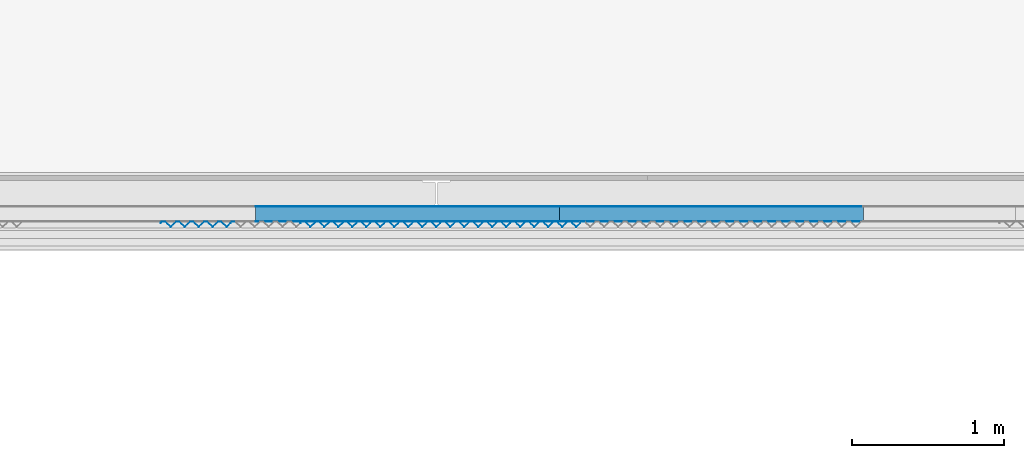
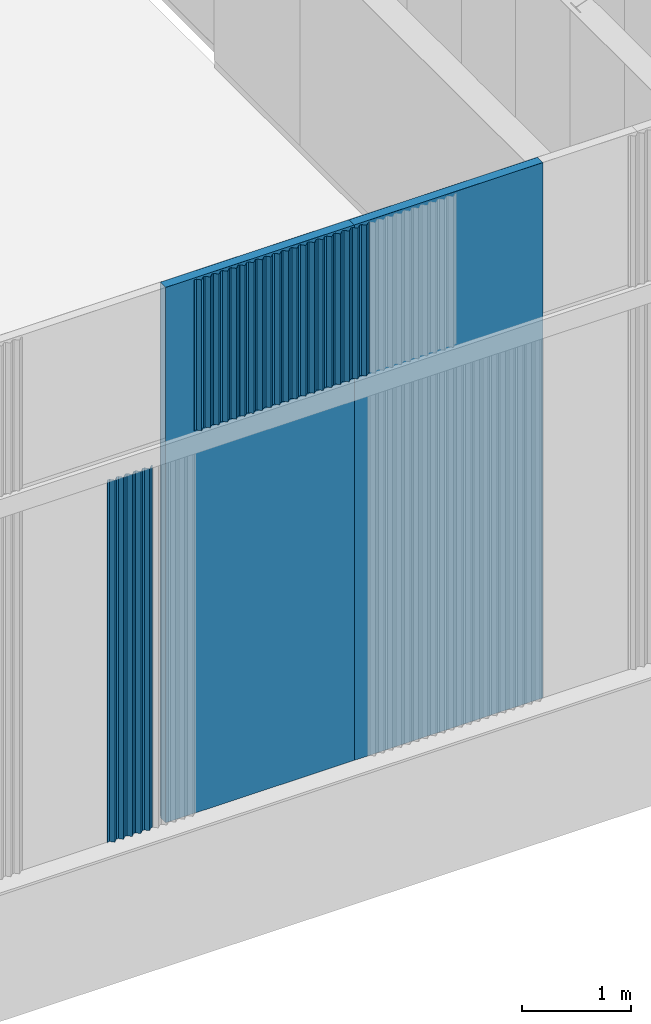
# One storey, part 99 of 338: 11 building element parts, 5 elements without a shape of their own.
"""IFC2X3 building model written with IfcOpenShell, lengths in millimetres."""

from ifc_helpers import new_model, entity, si_unit, converted_unit, derived_unit, money_unit, direction, frame, origin_with_axes, place, context, subcontext, project, spatial, faceted_brep, material, type_object, element, aggregate, save


model = new_model("IFC2X3")

# Units and contexts
model_context = context("Model", 3, precision=0.01, world=origin_with_axes(), true_north=direction((0.0, 1.0)))
plan_context = context("Plan", 3, precision=0.01, world=origin_with_axes(), true_north=direction((0.0, 1.0)))
body_context = subcontext(model_context, "Body", "Model", "MODEL_VIEW")
ifc_project = project(units=[si_unit("LENGTHUNIT", "METRE", prefix="MILLI"), si_unit("AREAUNIT", "SQUARE_METRE"), si_unit("VOLUMEUNIT", "CUBIC_METRE"), converted_unit("PLANEANGLEUNIT", "DEGREE", entity("IfcPlaneAngleMeasure", 0.0174532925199), si_unit("PLANEANGLEUNIT", "RADIAN"), dimensions=[0, 0, 0, 0, 0, 0, 0]), money_unit("EUR"), converted_unit("TIMEUNIT", "Year", entity("IfcTimeMeasure", 31556926.0), si_unit("TIMEUNIT", "SECOND"), dimensions=[0, 0, 1, 0, 0, 0, 0]), si_unit("MASSUNIT", "GRAM", prefix="KILO"), si_unit("THERMODYNAMICTEMPERATUREUNIT", "DEGREE_CELSIUS"), si_unit("LUMINOUSINTENSITYUNIT", "LUMEN"), si_unit("ENERGYUNIT", "JOULE", prefix="MEGA"), derived_unit("THERMALCONDUCTANCEUNIT", [(si_unit("POWERUNIT", "WATT"), 1), (si_unit("LENGTHUNIT", "METRE"), -1), (si_unit("THERMODYNAMICTEMPERATUREUNIT", "KELVIN"), -1)]), derived_unit("SPECIFICHEATCAPACITYUNIT", [(si_unit("ENERGYUNIT", "JOULE"), 1), (si_unit("MASSUNIT", "GRAM", prefix="KILO"), -1), (si_unit("THERMODYNAMICTEMPERATUREUNIT", "KELVIN"), -1)]), derived_unit("MASSDENSITYUNIT", [(si_unit("MASSUNIT", "GRAM", prefix="KILO"), 1), (si_unit("VOLUMEUNIT", "CUBIC_METRE"), -1)])], contexts=[model_context, plan_context])

# Site, building, storey
site_placement = place(None, origin_with_axes())
site = spatial("IfcSite", under=ifc_project, at=site_placement, Name="Fortuinstraat Woensdrecht", CompositionType="ELEMENT")
building_placement = place(site_placement, origin_with_axes())
building = spatial("IfcBuilding", under=site, at=building_placement, Name="IKC Fortuna", CompositionType="ELEMENT")
storey_placement = place(building_placement, origin_with_axes())
storey = spatial("IfcBuildingStorey", under=building, at=storey_placement, Name="00 begane grond", CompositionType="ELEMENT", Elevation=0.0)

# Wall, building element parts
wall_type = type_object("IfcWallType", Name="21 sandwich 100", PredefinedType="NOTDEFINED")
wall_1_placement = place(storey_placement, frame((56093.4131798, 20996.2966283, 1000.0), z_axis=(0.0, 0.0, 1.0), x_axis=(-1.0, 0.0, 0.0)))
wall_1 = element("IfcWall", 1, at=wall_1_placement, inside=storey, type_object=wall_type, Name="21_Wand_sandwichplaat")
ifc_material_1 = material(Name="Metaal - Aluminium")
building_element_part_1_placement = place(wall_1_placement, origin_with_axes())
building_element_part_1 = element("IfcBuildingElementPart", 2, at=building_element_part_1_placement, material=ifc_material_1, Name="Metaal - Aluminium", context=body_context, shape_type="Brep", body=[
    faceted_brep([(0.0, 99.0, 6000.0), (2000.0, 99.0, 6000.0), (2000.0, 100.0, 6000.0), (0.0, 100.0, 6000.0), (0.0, 99.0, 0.0), (2000.0, 99.0, 0.0), (2000.0, 100.0, 0.0), (0.0, 100.0, 0.0)], [[[0, 1, 2, 3]], [[4, 5, 1, 0]], [[2, 1, 5, 6]], [[3, 2, 6, 7]], [[4, 0, 3, 7]], [[7, 6, 5, 4]]]),
])
ifc_material_2 = material(Name="Isolatie - Kunststof hard")
building_element_part_2_placement = place(wall_1_placement, origin_with_axes())
building_element_part_2 = element("IfcBuildingElementPart", 3, at=building_element_part_2_placement, material=ifc_material_2, Name="Isolatie - Kunststof hard", context=body_context, shape_type="Brep", body=[
    faceted_brep([(2000.0, 1.0, 6000.0), (2000.0, 99.0, 6000.0), (0.0, 99.0, 6000.0), (0.0, 1.0, 6000.0), (2000.0, 1.0, 0.0), (2000.0, 99.0, 0.0), (0.0, 99.0, 0.0), (0.0, 1.0, 0.0)], [[[0, 1, 2, 3]], [[0, 4, 5, 1]], [[1, 5, 6, 2]], [[3, 2, 6, 7]], [[4, 0, 3, 7]], [[5, 4, 7, 6]]]),
])
building_element_part_3_placement = place(wall_1_placement, origin_with_axes())
building_element_part_3 = element("IfcBuildingElementPart", 4, at=building_element_part_3_placement, material=ifc_material_1, Name="Metaal - Aluminium", context=body_context, shape_type="Brep", body=[
    faceted_brep([(2000.0, 1.0, 6000.0), (2000.0, 0.999999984, 18.9261694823), (0.0, 0.999999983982, 18.9261694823), (0.0, 1.0, 6000.0), (2000.0, 0.0, 18.9263474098), (2000.0, 0.0, 6000.0), (0.0, 0.0, 18.9263474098), (0.0, 0.0, 6000.0)], [[[0, 1, 2, 3]], [[4, 1, 0, 5]], [[1, 4, 6, 2]], [[3, 2, 6, 7]], [[5, 0, 3, 7]], [[4, 5, 7, 6]]]),
])
aggregate(wall_1, [building_element_part_1, building_element_part_2, building_element_part_3])

wall_2_placement = place(storey_placement, frame((54093.4131798, 20996.2966283, 1000.0), z_axis=(0.0, 0.0, 1.0), x_axis=(-1.0, 0.0, 0.0)))
wall_2 = element("IfcWall", 5, at=wall_2_placement, inside=storey, type_object=wall_type, Name="21_Wand_sandwichplaat")
building_element_part_4_placement = place(wall_2_placement, origin_with_axes())
building_element_part_4 = element("IfcBuildingElementPart", 6, at=building_element_part_4_placement, material=ifc_material_1, Name="Metaal - Aluminium", context=body_context, shape_type="Brep", body=[
    faceted_brep([(0.0, 99.0, 6000.0), (2000.0, 99.0, 6000.0), (2000.0, 100.0, 6000.0), (0.0, 100.0, 6000.0), (0.0, 99.0, 0.0), (2000.0, 99.0, 0.0), (2000.0, 100.0, 0.0), (0.0, 100.0, 0.0)], [[[0, 1, 2, 3]], [[4, 5, 1, 0]], [[2, 1, 5, 6]], [[3, 2, 6, 7]], [[4, 0, 3, 7]], [[7, 6, 5, 4]]]),
])
building_element_part_5_placement = place(wall_2_placement, origin_with_axes())
building_element_part_5 = element("IfcBuildingElementPart", 7, at=building_element_part_5_placement, material=ifc_material_2, Name="Isolatie - Kunststof hard", context=body_context, shape_type="Brep", body=[
    faceted_brep([(0.0, 1.0, 0.0), (2000.0, 1.0, 0.0), (2000.0, 1.0, 6000.0), (0.0, 1.0, 6000.0), (783.886122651, 1.0, 5455.33386304), (709.986122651, 1.0, 5455.33386304), (709.986122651, 1.0, 5471.33612763), (909.986122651, 1.0, 5471.33612763), (909.986122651, 1.0, 5455.33386304), (836.086122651, 1.0, 5455.33386304), (825.586122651, 1.0, 5452.51999831), (817.899589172, 1.0, 5444.8323769), (815.086122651, 1.0, 5434.33089076), (815.086122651, 1.0, 5008.27059593), (817.899589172, 1.0, 4997.76910979), (825.586122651, 1.0, 4990.08148838), (836.086122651, 1.0, 4987.26762365), (909.986122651, 1.0, 4987.26762365), (909.986122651, 1.0, 4971.26535906), (709.986122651, 1.0, 4971.26535906), (709.986122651, 1.0, 4987.26762365), (783.886122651, 1.0, 4987.26762365), (794.386122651, 1.0, 4990.08148838), (802.072656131, 1.0, 4997.76910979), (804.886122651, 1.0, 5008.27059593), (804.886122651, 1.0, 5434.33089076), (802.072656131, 1.0, 5444.8323769), (794.386122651, 1.0, 5452.51999831), (0.0, 99.0, 0.0), (2000.0, 99.0, 0.0), (2000.0, 99.0, 6000.0), (0.0, 99.0, 6000.0), (783.886122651, 6.82020058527, 5455.43179028), (709.986122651, 6.82020058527, 5455.43179028), (709.986122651, 6.55103216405, 5471.42952601), (909.986122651, 6.55103216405, 5471.42952601), (909.986122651, 6.82020058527, 5455.43179028), (836.086122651, 6.82020058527, 5455.43179028), (825.586122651, 6.86753160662, 5452.61872192), (817.899589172, 6.9968423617, 5444.93327621), (815.086122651, 7.17348413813, 5434.43476214), (815.086122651, 14.3400933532, 5008.49504844), (817.899589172, 14.5167351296, 4997.99653437), (825.586122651, 14.6460458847, 4990.31108866), (836.086122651, 14.6933769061, 4987.4980203), (909.986122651, 14.6933769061, 4987.4980203), (909.986122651, 14.9625453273, 4971.50028457), (709.986122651, 14.9625453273, 4971.50028457), (709.986122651, 14.6933769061, 4987.4980203), (783.886122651, 14.6933769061, 4987.4980203), (794.386122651, 14.6460458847, 4990.31108866), (802.072656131, 14.5167351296, 4997.99653437), (804.886122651, 14.3400933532, 5008.49504844), (804.886122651, 7.17348413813, 5434.43476214), (802.072656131, 6.9968423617, 5444.93327621), (794.386122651, 6.86753160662, 5452.61872192)], [[[0, 1, 2, 3], [4, 5, 6, 7, 8, 9, 10, 11, 12, 13, 14, 15, 16, 17, 18, 19, 20, 21, 22, 23, 24, 25, 26, 27]], [[28, 29, 1, 0]], [[30, 2, 1, 29]], [[3, 2, 30, 31]], [[0, 3, 31, 28]], [[5, 4, 32, 33]], [[6, 5, 33, 34]], [[7, 6, 34, 35]], [[8, 7, 35, 36]], [[9, 8, 36, 37]], [[10, 9, 37, 38]], [[11, 10, 38, 39]], [[12, 11, 39, 40]], [[13, 12, 40, 41]], [[14, 13, 41, 42]], [[15, 14, 42, 43]], [[16, 15, 43, 44]], [[17, 16, 44, 45]], [[18, 17, 45, 46]], [[19, 18, 46, 47]], [[20, 19, 47, 48]], [[21, 20, 48, 49]], [[22, 21, 49, 50]], [[23, 22, 50, 51]], [[24, 23, 51, 52]], [[25, 24, 52, 53]], [[26, 25, 53, 54]], [[27, 26, 54, 55]], [[4, 27, 55, 32]], [[31, 30, 29, 28]], [[47, 46, 45, 44, 43, 42, 41, 40, 39, 38, 37, 36, 35, 34, 33, 32, 55, 54, 53, 52, 51, 50, 49, 48]]]),
])
building_element_part_6_placement = place(wall_2_placement, origin_with_axes())
building_element_part_6 = element("IfcBuildingElementPart", 8, at=building_element_part_6_placement, material=ifc_material_1, Name="Metaal - Aluminium", context=body_context, shape_type="Brep", body=[
    faceted_brep([(909.986122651, 1.0, 4987.26762365), (909.986122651, 1.0, 4971.26535906), (909.986122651, 0.0, 4971.24853365), (909.986122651, 0.0, 4987.25079824), (2000.0, 1.0, 6000.0), (2000.0, 0.999999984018, 18.9261694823), (0.0, 0.999999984, 18.9261694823), (0.0, 1.0, 6000.0), (836.086122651, 1.0, 4987.26762365), (825.586122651, 1.0, 4990.08148838), (817.899589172, 1.0, 4997.76910979), (815.086122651, 1.0, 5008.27059593), (815.086122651, 1.0, 5434.33089076), (817.899589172, 1.0, 5444.8323769), (825.586122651, 1.0, 5452.51999831), (836.086122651, 1.0, 5455.33386304), (909.986122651, 1.0, 5455.33386304), (909.986122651, 1.0, 5471.33612763), (709.986122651, 1.0, 5471.33612763), (709.986122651, 1.0, 5455.33386304), (783.886122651, 1.0, 5455.33386304), (794.386122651, 1.0, 5452.51999831), (802.072656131, 1.0, 5444.8323769), (804.886122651, 1.0, 5434.33089076), (804.886122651, 1.0, 5008.27059593), (802.072656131, 1.0, 4997.76910979), (794.386122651, 1.0, 4990.08148838), (783.886122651, 1.0, 4987.26762365), (709.986122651, 1.0, 4987.26762365), (709.986122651, 1.0, 4971.26535906), (709.986122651, 0.0, 4971.24853365), (2000.0, 0.0, 18.9263474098), (2000.0, 0.0, 6000.0), (0.0, 0.0, 6000.0), (0.0, 0.0, 18.9263474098), (825.586122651, 0.0, 4990.06466297), (836.086122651, 0.0, 4987.25079824), (709.986122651, 0.0, 4987.25079824), (783.886122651, 0.0, 4987.25079824), (794.386122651, 0.0, 4990.06466297), (802.072656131, 0.0, 4997.75228438), (804.886122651, 0.0, 5008.25377052), (804.886122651, 0.0, 5434.31406535), (802.072656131, 0.0, 5444.81555149), (794.386122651, 0.0, 5452.5031729), (783.886122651, 0.0, 5455.31703763), (709.986122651, 0.0, 5455.31703763), (709.986122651, 0.0, 5471.31930223), (909.986122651, 0.0, 5471.31930223), (909.986122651, 0.0, 5455.31703763), (836.086122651, 0.0, 5455.31703763), (825.586122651, 0.0, 5452.5031729), (817.899589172, 0.0, 5444.81555149), (815.086122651, 0.0, 5434.31406535), (815.086122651, 0.0, 5008.25377052), (817.899589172, 0.0, 4997.75228438)], [[[0, 1, 2, 3]], [[4, 5, 6, 7], [1, 0, 8, 9, 10, 11, 12, 13, 14, 15, 16, 17, 18, 19, 20, 21, 22, 23, 24, 25, 26, 27, 28, 29]], [[2, 1, 29, 30]], [[31, 32, 33, 34], [35, 36, 3, 2, 30, 37, 38, 39, 40, 41, 42, 43, 44, 45, 46, 47, 48, 49, 50, 51, 52, 53, 54, 55]], [[8, 0, 3, 36]], [[5, 4, 32, 31]], [[5, 31, 34, 6]], [[7, 6, 34, 33]], [[32, 4, 7, 33]], [[36, 35, 9, 8]], [[10, 9, 35, 55]], [[11, 10, 55, 54]], [[11, 54, 53, 12]], [[13, 12, 53, 52]], [[14, 13, 52, 51]], [[51, 50, 15, 14]], [[49, 16, 15, 50]], [[17, 16, 49, 48]], [[17, 48, 47, 18]], [[19, 18, 47, 46]], [[20, 19, 46, 45]], [[44, 21, 20, 45]], [[22, 21, 44, 43]], [[23, 22, 43, 42]], [[24, 23, 42, 41]], [[25, 24, 41, 40]], [[26, 25, 40, 39]], [[26, 39, 38, 27]], [[28, 27, 38, 37]], [[29, 28, 37, 30]]]),
])
aggregate(wall_2, [building_element_part_4, building_element_part_5, building_element_part_6])

# Proxy, building element parts
building_element_proxy_type = type_object("IfcBuildingElementProxyType", Name="21 Sandwich custom pyramid 946 x 37", PredefinedType="NOTDEFINED")
proxy_1_placement = place(storey_placement, frame((54254.9270571, 20896.2966283, 5289.99999237), z_axis=(0.0, 0.0, 1.0), x_axis=(-1.0, 0.0, 0.0)))
proxy_1 = element("IfcBuildingElementProxy", 9, at=proxy_1_placement, inside=storey, type_object=building_element_proxy_type, Name="41_Generieke bekleding & afwerking buiten_sandwich custom pyramid")
building_element_part_7_placement = place(proxy_1_placement, origin_with_axes())
building_element_part_7 = element("IfcBuildingElementPart", 10, at=building_element_part_7_placement, material=ifc_material_1, Name="Metaal - Aluminium", context=body_context, shape_type="Brep", body=[
    faceted_brep([(0.0, 2.39999686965, 0.0), (0.0, 1.20000548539, 0.0), (0.0, 1.20000548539, 1690.00000566), (0.0, 2.39999686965, 1690.00000566), (16.7470988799, 2.39999686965, 0.0), (52.0000026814, 36.6736482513, 0.0), (88.487191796, 1.20000548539, 0.0), (107.51282048, 1.20000548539, 0.0), (143.999995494, 36.6736482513, 0.0), (180.487184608, 1.20000548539, 0.0), (199.512813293, 1.20000548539, 0.0), (236.000002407, 36.6736482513, 0.0), (272.487191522, 1.20000548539, 0.0), (291.512820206, 1.20000548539, 0.0), (327.99999522, 36.6736482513, 0.0), (364.487184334, 1.20000548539, 0.0), (383.512813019, 1.20000548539, 0.0), (420.000002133, 36.6736482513, 0.0), (456.487191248, 1.20000548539, 0.0), (460.000006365, 1.20000548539, 0.0), (477.23428491, 1.20000548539, 0.0), (485.472879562, 9.20975302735, 0.0), (486.309372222, 8.34935896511, 0.0), (477.721464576, 0.0, 0.0), (455.999997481, 0.0, 0.0), (420.000002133, 35.0000001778, 0.0), (384.000006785, 0.0, 0.0), (364.000004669, 0.0, 0.0), (327.99999522, 35.0000001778, 0.0), (291.999999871, 0.0, 0.0), (271.999997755, 0.0, 0.0), (236.000002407, 35.0000001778, 0.0), (199.999992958, 0.0, 0.0), (180.000004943, 0.0, 0.0), (143.999995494, 35.0000001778, 0.0), (108.000000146, 0.0, 0.0), (87.9999980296, 0.0, 0.0), (52.0000026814, 35.0000001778, 0.0), (17.2342926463, 1.20000548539, 0.0), (17.2342926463, 1.20000548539, 1690.00000566), (52.0000026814, 35.0000001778, 1690.00000566), (87.9999980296, 0.0, 1690.00000566), (108.000000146, 0.0, 1690.00000566), (143.999995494, 35.0000001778, 1690.00000566), (180.000004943, 0.0, 1690.00000566), (199.999992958, 0.0, 1690.00000566), (236.000002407, 35.0000001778, 1690.00000566), (271.999997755, 0.0, 1690.00000566), (291.999999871, 0.0, 1690.00000566), (327.99999522, 35.0000001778, 1690.00000566), (364.000004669, 0.0, 1690.00000566), (384.000006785, 0.0, 1690.00000566), (420.000002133, 35.0000001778, 1690.00000566), (455.999997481, 0.0, 1690.00000566), (477.721464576, 0.0, 1690.00000566), (486.309372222, 8.34935896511, 1690.00000566), (485.472879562, 9.20975302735, 1690.00000566), (477.23428491, 1.20000548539, 1690.00000566), (460.000006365, 1.20000548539, 1690.00000566), (456.487191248, 1.20000548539, 1690.00000566), (420.000002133, 36.6736482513, 1690.00000566), (383.512813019, 1.20000548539, 1690.00000566), (364.487184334, 1.20000548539, 1690.00000566), (327.99999522, 36.6736482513, 1690.00000566), (291.512820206, 1.20000548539, 1690.00000566), (272.487191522, 1.20000548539, 1690.00000566), (236.000002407, 36.6736482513, 1690.00000566), (199.512813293, 1.20000548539, 1690.00000566), (180.487184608, 1.20000548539, 1690.00000566), (143.999995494, 36.6736482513, 1690.00000566), (107.51282048, 1.20000548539, 1690.00000566), (88.487191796, 1.20000548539, 1690.00000566), (52.0000026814, 36.6736482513, 1690.00000566), (16.7470988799, 2.39999686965, 1690.00000566)], [[[0, 1, 2, 3]], [[0, 4, 5, 6, 7, 8, 9, 10, 11, 12, 13, 14, 15, 16, 17, 18, 19, 20, 21, 22, 23, 24, 25, 26, 27, 28, 29, 30, 31, 32, 33, 34, 35, 36, 37, 38, 1]], [[1, 38, 39, 2]], [[3, 2, 39, 40, 41, 42, 43, 44, 45, 46, 47, 48, 49, 50, 51, 52, 53, 54, 55, 56, 57, 58, 59, 60, 61, 62, 63, 64, 65, 66, 67, 68, 69, 70, 71, 72, 73]], [[4, 0, 3, 73]], [[5, 4, 73, 72]], [[6, 5, 72, 71]], [[7, 6, 71, 70]], [[8, 7, 70, 69]], [[9, 8, 69, 68]], [[10, 9, 68, 67]], [[11, 10, 67, 66]], [[12, 11, 66, 65]], [[13, 12, 65, 64]], [[14, 13, 64, 63]], [[15, 14, 63, 62]], [[16, 15, 62, 61]], [[17, 16, 61, 60]], [[18, 17, 60, 59]], [[19, 18, 59, 58]], [[20, 19, 58, 57]], [[21, 20, 57, 56]], [[22, 21, 56, 55]], [[23, 22, 55, 54]], [[24, 23, 54, 53]], [[25, 24, 53, 52]], [[26, 25, 52, 51]], [[27, 26, 51, 50]], [[28, 27, 50, 49]], [[29, 28, 49, 48]], [[30, 29, 48, 47]], [[31, 30, 47, 46]], [[32, 31, 46, 45]], [[33, 32, 45, 44]], [[34, 33, 44, 43]], [[35, 34, 43, 42]], [[36, 35, 42, 41]], [[37, 36, 41, 40]], [[38, 37, 40, 39]]]),
])
building_element_part_8_placement = place(proxy_1_placement, origin_with_axes())
building_element_part_8 = element("IfcBuildingElementPart", 11, at=building_element_part_8_placement, material=ifc_material_1, Name="Metaal - Aluminium", context=body_context, shape_type="Brep", body=[
    faceted_brep([(460.0, 1.2, 0.0), (477.234285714, 1.2, 0.0), (477.234285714, 1.2, 1690.00000566), (460.0, 1.2, 1690.00000566), (460.0, 2.4, 0.0), (476.747100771, 2.4, 0.0), (512.0, 36.6736520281, 0.0), (548.487184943, 1.2, 0.0), (567.512815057, 1.2, 0.0), (604.0, 36.6736520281, 0.0), (640.487184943, 1.2, 0.0), (659.512815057, 1.2, 0.0), (696.0, 36.6736520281, 0.0), (732.487184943, 1.2, 0.0), (751.512815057, 1.2, 0.0), (788.0, 36.6736520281, 0.0), (824.487184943, 1.2, 0.0), (843.512815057, 1.2, 0.0), (880.0, 36.6736520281, 0.0), (916.487184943, 1.2, 0.0), (937.234285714, 1.2, 0.0), (945.472884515, 9.20974883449, 0.0), (946.309378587, 8.34935493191, 0.0), (937.721470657, 0.0, 0.0), (916.0, 0.0, 0.0), (880.0, 35.0, 0.0), (844.0, 0.0, 0.0), (824.0, 0.0, 0.0), (788.0, 35.0, 0.0), (752.0, 0.0, 0.0), (732.0, 0.0, 0.0), (696.0, 35.0, 0.0), (660.0, 0.0, 0.0), (640.0, 0.0, 0.0), (604.0, 35.0, 0.0), (568.0, 0.0, 0.0), (548.0, 0.0, 0.0), (512.0, 35.0, 0.0), (485.472879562, 9.20975302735, 0.0), (485.472879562, 9.20975302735, 1690.00000566), (512.0, 35.0, 1690.00000566), (548.0, 0.0, 1690.00000566), (568.0, 0.0, 1690.00000566), (604.0, 35.0, 1690.00000566), (640.0, 0.0, 1690.00000566), (660.0, 0.0, 1690.00000566), (696.0, 35.0, 1690.00000566), (732.0, 0.0, 1690.00000566), (752.0, 0.0, 1690.00000566), (788.0, 35.0, 1690.00000566), (824.0, 0.0, 1690.00000566), (844.0, 0.0, 1690.00000566), (880.0, 35.0, 1690.00000566), (916.0, 0.0, 1690.00000566), (937.721470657, 0.0, 1690.00000566), (946.309378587, 8.34935493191, 1690.00000566), (945.472884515, 9.20974883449, 1690.00000566), (937.234285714, 1.2, 1690.00000566), (916.487184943, 1.2, 1690.00000566), (880.0, 36.6736520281, 1690.00000566), (843.512815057, 1.2, 1690.00000566), (824.487184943, 1.2, 1690.00000566), (788.0, 36.6736520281, 1690.00000566), (751.512815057, 1.2, 1690.00000566), (732.487184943, 1.2, 1690.00000566), (696.0, 36.6736520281, 1690.00000566), (659.512815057, 1.2, 1690.00000566), (640.487184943, 1.2, 1690.00000566), (604.0, 36.6736520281, 1690.00000566), (567.512815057, 1.2, 1690.00000566), (548.487184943, 1.2, 1690.00000566), (512.0, 36.6736520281, 1690.00000566), (476.747100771, 2.4, 1690.00000566), (460.0, 2.4, 1690.00000566)], [[[0, 1, 2, 3]], [[0, 4, 5, 6, 7, 8, 9, 10, 11, 12, 13, 14, 15, 16, 17, 18, 19, 20, 21, 22, 23, 24, 25, 26, 27, 28, 29, 30, 31, 32, 33, 34, 35, 36, 37, 38, 1]], [[1, 38, 39, 2]], [[3, 2, 39, 40, 41, 42, 43, 44, 45, 46, 47, 48, 49, 50, 51, 52, 53, 54, 55, 56, 57, 58, 59, 60, 61, 62, 63, 64, 65, 66, 67, 68, 69, 70, 71, 72, 73]], [[4, 0, 3, 73]], [[5, 4, 73, 72]], [[6, 5, 72, 71]], [[7, 6, 71, 70]], [[8, 7, 70, 69]], [[9, 8, 69, 68]], [[10, 9, 68, 67]], [[11, 10, 67, 66]], [[12, 11, 66, 65]], [[13, 12, 65, 64]], [[14, 13, 64, 63]], [[15, 14, 63, 62]], [[16, 15, 62, 61]], [[17, 16, 61, 60]], [[18, 17, 60, 59]], [[19, 18, 59, 58]], [[20, 19, 58, 57]], [[21, 20, 57, 56]], [[22, 21, 56, 55]], [[23, 22, 55, 54]], [[24, 23, 54, 53]], [[25, 24, 53, 52]], [[26, 25, 52, 51]], [[27, 26, 51, 50]], [[28, 27, 50, 49]], [[29, 28, 49, 48]], [[30, 29, 48, 47]], [[31, 30, 47, 46]], [[32, 31, 46, 45]], [[33, 32, 45, 44]], [[34, 33, 44, 43]], [[35, 34, 43, 42]], [[36, 35, 42, 41]], [[37, 36, 41, 40]], [[38, 37, 40, 39]]]),
])
aggregate(proxy_1, [building_element_part_7, building_element_part_8])

proxy_2_placement = place(storey_placement, frame((53334.9270571, 20896.2966283, 5289.99999237), z_axis=(0.0, 0.0, 1.0), x_axis=(-1.0, 0.0, 0.0)))
proxy_2 = element("IfcBuildingElementProxy", 12, at=proxy_2_placement, inside=storey, type_object=building_element_proxy_type, Name="41_Generieke bekleding & afwerking buiten_sandwich custom pyramid")
building_element_part_9_placement = place(proxy_2_placement, origin_with_axes())
building_element_part_9 = element("IfcBuildingElementPart", 13, at=building_element_part_9_placement, material=ifc_material_1, Name="Metaal - Aluminium", context=body_context, shape_type="Brep", body=[
    faceted_brep([(0.0, 2.39999686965, 0.0), (0.0, 1.20000548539, 0.0), (0.0, 1.20000548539, 1690.00000566), (0.0, 2.39999686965, 1690.00000566), (16.7470988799, 2.39999686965, 0.0), (52.0000026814, 36.6736482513, 0.0), (88.487191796, 1.20000548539, 0.0), (107.51282048, 1.20000548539, 0.0), (143.999995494, 36.6736482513, 0.0), (180.487184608, 1.20000548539, 0.0), (199.512813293, 1.20000548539, 0.0), (236.000002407, 36.6736482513, 0.0), (272.487191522, 1.20000548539, 0.0), (291.512820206, 1.20000548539, 0.0), (327.99999522, 36.6736482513, 0.0), (364.487184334, 1.20000548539, 0.0), (383.512813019, 1.20000548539, 0.0), (420.000002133, 36.6736482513, 0.0), (456.487191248, 1.20000548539, 0.0), (460.000006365, 1.20000548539, 0.0), (477.23428491, 1.20000548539, 0.0), (485.472879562, 9.20975302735, 0.0), (486.309372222, 8.34935896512, 0.0), (477.721464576, 0.0, 0.0), (455.999997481, 0.0, 0.0), (420.000002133, 35.0000001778, 0.0), (384.000006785, 0.0, 0.0), (364.000004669, 0.0, 0.0), (327.99999522, 35.0000001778, 0.0), (291.999999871, 0.0, 0.0), (271.999997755, 0.0, 0.0), (236.000002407, 35.0000001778, 0.0), (199.999992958, 0.0, 0.0), (180.000004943, 0.0, 0.0), (143.999995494, 35.0000001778, 0.0), (108.000000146, 0.0, 0.0), (87.9999980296, 0.0, 0.0), (52.0000026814, 35.0000001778, 0.0), (17.2342926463, 1.20000548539, 0.0), (17.2342926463, 1.20000548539, 1690.00000566), (52.0000026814, 35.0000001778, 1690.00000566), (87.9999980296, 0.0, 1690.00000566), (108.000000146, 0.0, 1690.00000566), (143.999995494, 35.0000001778, 1690.00000566), (180.000004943, 0.0, 1690.00000566), (199.999992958, 0.0, 1690.00000566), (236.000002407, 35.0000001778, 1690.00000566), (271.999997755, 0.0, 1690.00000566), (291.999999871, 0.0, 1690.00000566), (327.99999522, 35.0000001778, 1690.00000566), (364.000004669, 0.0, 1690.00000566), (384.000006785, 0.0, 1690.00000566), (420.000002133, 35.0000001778, 1690.00000566), (455.999997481, 0.0, 1690.00000566), (477.721464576, 0.0, 1690.00000566), (486.309372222, 8.34935896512, 1690.00000566), (485.472879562, 9.20975302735, 1690.00000566), (477.23428491, 1.20000548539, 1690.00000566), (460.000006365, 1.20000548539, 1690.00000566), (456.487191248, 1.20000548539, 1690.00000566), (420.000002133, 36.6736482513, 1690.00000566), (383.512813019, 1.20000548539, 1690.00000566), (364.487184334, 1.20000548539, 1690.00000566), (327.99999522, 36.6736482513, 1690.00000566), (291.512820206, 1.20000548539, 1690.00000566), (272.487191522, 1.20000548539, 1690.00000566), (236.000002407, 36.6736482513, 1690.00000566), (199.512813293, 1.20000548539, 1690.00000566), (180.487184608, 1.20000548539, 1690.00000566), (143.999995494, 36.6736482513, 1690.00000566), (107.51282048, 1.20000548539, 1690.00000566), (88.487191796, 1.20000548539, 1690.00000566), (52.0000026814, 36.6736482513, 1690.00000566), (16.7470988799, 2.39999686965, 1690.00000566)], [[[0, 1, 2, 3]], [[0, 4, 5, 6, 7, 8, 9, 10, 11, 12, 13, 14, 15, 16, 17, 18, 19, 20, 21, 22, 23, 24, 25, 26, 27, 28, 29, 30, 31, 32, 33, 34, 35, 36, 37, 38, 1]], [[1, 38, 39, 2]], [[3, 2, 39, 40, 41, 42, 43, 44, 45, 46, 47, 48, 49, 50, 51, 52, 53, 54, 55, 56, 57, 58, 59, 60, 61, 62, 63, 64, 65, 66, 67, 68, 69, 70, 71, 72, 73]], [[4, 0, 3, 73]], [[5, 4, 73, 72]], [[6, 5, 72, 71]], [[7, 6, 71, 70]], [[8, 7, 70, 69]], [[9, 8, 69, 68]], [[10, 9, 68, 67]], [[11, 10, 67, 66]], [[12, 11, 66, 65]], [[13, 12, 65, 64]], [[14, 13, 64, 63]], [[15, 14, 63, 62]], [[16, 15, 62, 61]], [[17, 16, 61, 60]], [[18, 17, 60, 59]], [[19, 18, 59, 58]], [[20, 19, 58, 57]], [[21, 20, 57, 56]], [[22, 21, 56, 55]], [[23, 22, 55, 54]], [[24, 23, 54, 53]], [[25, 24, 53, 52]], [[26, 25, 52, 51]], [[27, 26, 51, 50]], [[28, 27, 50, 49]], [[29, 28, 49, 48]], [[30, 29, 48, 47]], [[31, 30, 47, 46]], [[32, 31, 46, 45]], [[33, 32, 45, 44]], [[34, 33, 44, 43]], [[35, 34, 43, 42]], [[36, 35, 42, 41]], [[37, 36, 41, 40]], [[38, 37, 40, 39]]]),
])
building_element_part_10_placement = place(proxy_2_placement, origin_with_axes())
building_element_part_10 = element("IfcBuildingElementPart", 14, at=building_element_part_10_placement, material=ifc_material_1, Name="Metaal - Aluminium", context=body_context, shape_type="Brep", body=[
    faceted_brep([(460.0, 1.2, 0.0), (477.234285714, 1.2, 0.0), (477.234285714, 1.2, 1690.00000566), (460.0, 1.2, 1690.00000566), (460.0, 2.40000000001, 0.0), (476.747100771, 2.40000000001, 0.0), (512.0, 36.6736520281, 0.0), (548.487184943, 1.2, 0.0), (567.512815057, 1.2, 0.0), (604.0, 36.6736520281, 0.0), (640.487184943, 1.2, 0.0), (659.512815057, 1.2, 0.0), (696.0, 36.6736520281, 0.0), (732.487184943, 1.2, 0.0), (751.512815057, 1.2, 0.0), (788.0, 36.6736520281, 0.0), (824.487184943, 1.2, 0.0), (843.512815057, 1.2, 0.0), (880.0, 36.6736520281, 0.0), (916.487184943, 1.2, 0.0), (937.234285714, 1.2, 0.0), (945.472884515, 9.20974883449, 0.0), (946.309378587, 8.34935493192, 0.0), (937.721470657, 0.0, 0.0), (916.0, 0.0, 0.0), (880.0, 35.0, 0.0), (844.0, 0.0, 0.0), (824.0, 0.0, 0.0), (788.0, 35.0, 0.0), (752.0, 0.0, 0.0), (732.0, 0.0, 0.0), (696.0, 35.0, 0.0), (660.0, 0.0, 0.0), (640.0, 0.0, 0.0), (604.0, 35.0, 0.0), (568.0, 0.0, 0.0), (548.0, 0.0, 0.0), (512.0, 35.0, 0.0), (485.472879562, 9.20975302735, 0.0), (485.472879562, 9.20975302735, 1690.00000566), (512.0, 35.0, 1690.00000566), (548.0, 0.0, 1690.00000566), (568.0, 0.0, 1690.00000566), (604.0, 35.0, 1690.00000566), (640.0, 0.0, 1690.00000566), (660.0, 0.0, 1690.00000566), (696.0, 35.0, 1690.00000566), (732.0, 0.0, 1690.00000566), (752.0, 0.0, 1690.00000566), (788.0, 35.0, 1690.00000566), (824.0, 0.0, 1690.00000566), (844.0, 0.0, 1690.00000566), (880.0, 35.0, 1690.00000566), (916.0, 0.0, 1690.00000566), (937.721470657, 0.0, 1690.00000566), (946.309378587, 8.34935493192, 1690.00000566), (945.472884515, 9.20974883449, 1690.00000566), (937.234285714, 1.2, 1690.00000566), (916.487184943, 1.2, 1690.00000566), (880.0, 36.6736520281, 1690.00000566), (843.512815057, 1.2, 1690.00000566), (824.487184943, 1.2, 1690.00000566), (788.0, 36.6736520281, 1690.00000566), (751.512815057, 1.2, 1690.00000566), (732.487184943, 1.2, 1690.00000566), (696.0, 36.6736520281, 1690.00000566), (659.512815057, 1.2, 1690.00000566), (640.487184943, 1.2, 1690.00000566), (604.0, 36.6736520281, 1690.00000566), (567.512815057, 1.2, 1690.00000566), (548.487184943, 1.2, 1690.00000566), (512.0, 36.6736520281, 1690.00000566), (476.747100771, 2.40000000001, 1690.00000566), (460.0, 2.40000000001, 1690.00000566)], [[[0, 1, 2, 3]], [[0, 4, 5, 6, 7, 8, 9, 10, 11, 12, 13, 14, 15, 16, 17, 18, 19, 20, 21, 22, 23, 24, 25, 26, 27, 28, 29, 30, 31, 32, 33, 34, 35, 36, 37, 38, 1]], [[1, 38, 39, 2]], [[3, 2, 39, 40, 41, 42, 43, 44, 45, 46, 47, 48, 49, 50, 51, 52, 53, 54, 55, 56, 57, 58, 59, 60, 61, 62, 63, 64, 65, 66, 67, 68, 69, 70, 71, 72, 73]], [[4, 0, 3, 73]], [[5, 4, 73, 72]], [[6, 5, 72, 71]], [[7, 6, 71, 70]], [[8, 7, 70, 69]], [[9, 8, 69, 68]], [[10, 9, 68, 67]], [[11, 10, 67, 66]], [[12, 11, 66, 65]], [[13, 12, 65, 64]], [[14, 13, 64, 63]], [[15, 14, 63, 62]], [[16, 15, 62, 61]], [[17, 16, 61, 60]], [[18, 17, 60, 59]], [[19, 18, 59, 58]], [[20, 19, 58, 57]], [[21, 20, 57, 56]], [[22, 21, 56, 55]], [[23, 22, 55, 54]], [[24, 23, 54, 53]], [[25, 24, 53, 52]], [[26, 25, 52, 51]], [[27, 26, 51, 50]], [[28, 27, 50, 49]], [[29, 28, 49, 48]], [[30, 29, 48, 47]], [[31, 30, 47, 46]], [[32, 31, 46, 45]], [[33, 32, 45, 44]], [[34, 33, 44, 43]], [[35, 34, 43, 42]], [[36, 35, 42, 41]], [[37, 36, 41, 40]], [[38, 37, 40, 39]]]),
])
aggregate(proxy_2, [building_element_part_9, building_element_part_10])

# Proxy, building element part
proxy_3_placement = place(storey_placement, frame((52414.9270571, 20896.2966283, 1000.0), z_axis=(0.0, 0.0, 1.0), x_axis=(-1.0, 0.0, 0.0)))
proxy_3 = element("IfcBuildingElementProxy", 15, at=proxy_3_placement, inside=storey, type_object=building_element_proxy_type, Name="41_Generieke bekleding & afwerking buiten_sandwich custom pyramid")
building_element_part_11_placement = place(proxy_3_placement, origin_with_axes())
building_element_part_11 = element("IfcBuildingElementPart", 16, at=building_element_part_11_placement, material=ifc_material_1, Name="Metaal - Aluminium", context=body_context, shape_type="Brep", body=[
    faceted_brep([(460.0, 1.2, 0.0), (477.234285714, 1.2, 0.0), (477.234285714, 1.2, 4060.85690076), (460.0, 1.2, 4060.85690076), (460.0, 2.4, 0.0), (476.747100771, 2.4, 0.0), (512.0, 36.6736520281, 0.0), (548.487184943, 1.2, 0.0), (567.512815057, 1.2, 0.0), (604.0, 36.6736520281, 0.0), (640.487184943, 1.2, 0.0), (659.512815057, 1.2, 0.0), (696.0, 36.6736520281, 0.0), (732.487184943, 1.2, 0.0), (751.512815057, 1.2, 0.0), (788.0, 36.6736520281, 0.0), (824.487184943, 1.2, 0.0), (843.512815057, 1.2, 0.0), (880.0, 36.6736520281, 0.0), (916.487184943, 1.2, 0.0), (937.234285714, 1.2, 0.0), (945.472884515, 9.20974883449, 0.0), (946.309378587, 8.34935493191, 0.0), (937.721470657, 0.0, 0.0), (916.0, 0.0, 0.0), (880.0, 35.0, 0.0), (844.0, 0.0, 0.0), (824.0, 0.0, 0.0), (788.0, 35.0, 0.0), (752.0, 0.0, 0.0), (732.0, 0.0, 0.0), (696.0, 35.0, 0.0), (660.0, 0.0, 0.0), (640.0, 0.0, 0.0), (604.0, 35.0, 0.0), (568.0, 0.0, 0.0), (548.0, 0.0, 0.0), (512.0, 35.0, 0.0), (485.472879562, 9.20975302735, 0.0), (485.472879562, 9.20975302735, 4060.85690076), (512.0, 35.0, 4060.85690076), (548.0, 0.0, 4060.85690076), (568.0, 0.0, 4060.85690076), (604.0, 35.0, 4060.85690076), (640.0, 0.0, 4060.85690076), (660.0, 0.0, 4060.85690076), (696.0, 35.0, 4060.85690076), (732.0, 0.0, 4060.85690076), (752.0, 0.0, 4060.85690076), (788.0, 35.0, 4060.85690076), (824.0, 0.0, 4060.85690076), (844.0, 0.0, 4060.85690076), (880.0, 35.0, 4060.85690076), (916.0, 0.0, 4060.85690076), (937.721470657, 0.0, 4060.85690076), (946.309378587, 8.34935493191, 4060.85690076), (945.472884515, 9.20974883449, 4060.85690076), (937.234285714, 1.2, 4060.85690076), (916.487184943, 1.2, 4060.85690076), (880.0, 36.6736520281, 4060.85690076), (843.512815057, 1.2, 4060.85690076), (824.487184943, 1.2, 4060.85690076), (788.0, 36.6736520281, 4060.85690076), (751.512815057, 1.2, 4060.85690076), (732.487184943, 1.2, 4060.85690076), (696.0, 36.6736520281, 4060.85690076), (659.512815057, 1.2, 4060.85690076), (640.487184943, 1.2, 4060.85690076), (604.0, 36.6736520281, 4060.85690076), (567.512815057, 1.2, 4060.85690076), (548.487184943, 1.2, 4060.85690076), (512.0, 36.6736520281, 4060.85690076), (476.747100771, 2.4, 4060.85690076), (460.0, 2.4, 4060.85690076)], [[[0, 1, 2, 3]], [[0, 4, 5, 6, 7, 8, 9, 10, 11, 12, 13, 14, 15, 16, 17, 18, 19, 20, 21, 22, 23, 24, 25, 26, 27, 28, 29, 30, 31, 32, 33, 34, 35, 36, 37, 38, 1]], [[1, 38, 39, 2]], [[3, 2, 39, 40, 41, 42, 43, 44, 45, 46, 47, 48, 49, 50, 51, 52, 53, 54, 55, 56, 57, 58, 59, 60, 61, 62, 63, 64, 65, 66, 67, 68, 69, 70, 71, 72, 73]], [[4, 0, 3, 73]], [[5, 4, 73, 72]], [[6, 5, 72, 71]], [[7, 6, 71, 70]], [[8, 7, 70, 69]], [[9, 8, 69, 68]], [[10, 9, 68, 67]], [[11, 10, 67, 66]], [[12, 11, 66, 65]], [[13, 12, 65, 64]], [[14, 13, 64, 63]], [[15, 14, 63, 62]], [[16, 15, 62, 61]], [[17, 16, 61, 60]], [[18, 17, 60, 59]], [[19, 18, 59, 58]], [[20, 19, 58, 57]], [[21, 20, 57, 56]], [[22, 21, 56, 55]], [[23, 22, 55, 54]], [[24, 23, 54, 53]], [[25, 24, 53, 52]], [[26, 25, 52, 51]], [[27, 26, 51, 50]], [[28, 27, 50, 49]], [[29, 28, 49, 48]], [[30, 29, 48, 47]], [[31, 30, 47, 46]], [[32, 31, 46, 45]], [[33, 32, 45, 44]], [[34, 33, 44, 43]], [[35, 34, 43, 42]], [[36, 35, 42, 41]], [[37, 36, 41, 40]], [[38, 37, 40, 39]]]),
])
aggregate(proxy_3, [building_element_part_11])

save(model, "model.ifc")
